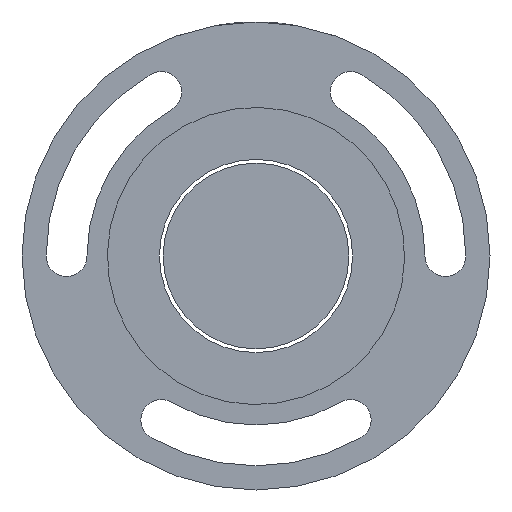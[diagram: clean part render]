
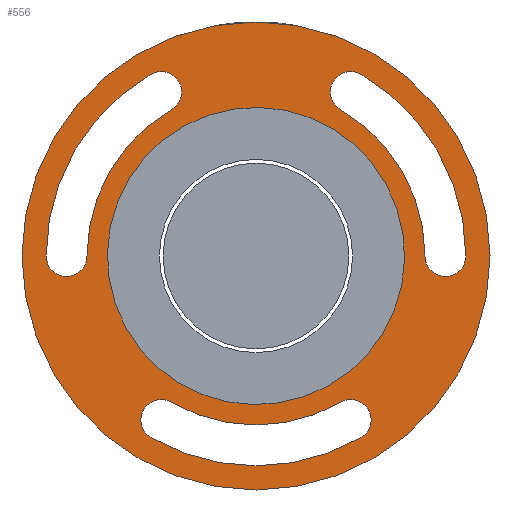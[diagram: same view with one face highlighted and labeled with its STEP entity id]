
A CAD part, left-side view. The second image highlights one B-rep face of the part: STEP entity #556.
In plain terms, the highlighted planar face has unit normal (-1, 0, 0).
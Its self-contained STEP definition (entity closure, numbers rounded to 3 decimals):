
#357=CARTESIAN_POINT('Vertex',(-11.,31.5,0.)) ;
#364=CARTESIAN_POINT('Vertex',(-11.,-31.5,0.)) ;
#367=CARTESIAN_POINT('Axis2P3D Location',(-11.,0.,0.)) ;
#388=CARTESIAN_POINT('Vertex',(-11.,9.589,17.552)) ;
#393=CARTESIAN_POINT('Axis2P3D Location',(-11.,0.,0.)) ;
#397=CARTESIAN_POINT('Vertex',(-11.,-9.589,-17.552)) ;
#419=CARTESIAN_POINT('Axis2P3D Location',(-11.,0.,0.)) ;
#436=CARTESIAN_POINT('Axis2P3D Location',(-11.,0.,83.699)) ;
#441=CARTESIAN_POINT('Axis2P3D Location',(-11.,0.,0.)) ;
#450=CARTESIAN_POINT('Axis2P3D Location',(-11.,12.75,22.084)) ;
#454=CARTESIAN_POINT('Vertex',(-11.,11.375,19.702)) ;
#456=CARTESIAN_POINT('Vertex',(-11.,14.125,24.465)) ;
#459=CARTESIAN_POINT('Axis2P3D Location',(-11.,0.,0.)) ;
#463=CARTESIAN_POINT('Vertex',(-11.,22.75,0.)) ;
#466=CARTESIAN_POINT('Axis2P3D Location',(-11.,25.5,0.)) ;
#470=CARTESIAN_POINT('Vertex',(-11.,28.25,0.)) ;
#473=CARTESIAN_POINT('Axis2P3D Location',(-11.,0.,0.)) ;
#488=CARTESIAN_POINT('Axis2P3D Location',(-11.,0.,0.)) ;
#492=CARTESIAN_POINT('Vertex',(-11.,-28.25,0.)) ;
#494=CARTESIAN_POINT('Vertex',(-11.,-14.125,24.465)) ;
#497=CARTESIAN_POINT('Axis2P3D Location',(-11.,-25.5,0.)) ;
#501=CARTESIAN_POINT('Vertex',(-11.,-22.75,0.)) ;
#504=CARTESIAN_POINT('Axis2P3D Location',(-11.,0.,0.)) ;
#508=CARTESIAN_POINT('Vertex',(-11.,-11.375,19.702)) ;
#511=CARTESIAN_POINT('Axis2P3D Location',(-11.,-12.75,22.084)) ;
#522=CARTESIAN_POINT('Axis2P3D Location',(-11.,0.,0.)) ;
#526=CARTESIAN_POINT('Vertex',(-11.,14.125,-24.465)) ;
#528=CARTESIAN_POINT('Vertex',(-11.,-14.125,-24.465)) ;
#531=CARTESIAN_POINT('Axis2P3D Location',(-11.,12.75,-22.084)) ;
#535=CARTESIAN_POINT('Vertex',(-11.,11.375,-19.702)) ;
#538=CARTESIAN_POINT('Axis2P3D Location',(-11.,0.,0.)) ;
#542=CARTESIAN_POINT('Vertex',(-11.,-11.375,-19.702)) ;
#545=CARTESIAN_POINT('Axis2P3D Location',(-11.,-12.75,-22.084)) ;
#368=DIRECTION('Axis2P3D Direction',(1.,0.,0.)) ;
#394=DIRECTION('Axis2P3D Direction',(-1.,0.,0.)) ;
#420=DIRECTION('Axis2P3D Direction',(-1.,0.,0.)) ;
#437=DIRECTION('Axis2P3D Direction',(-1.,0.,0.)) ;
#438=DIRECTION('Axis2P3D XDirection',(0.,1.,0.)) ;
#442=DIRECTION('Axis2P3D Direction',(-1.,0.,0.)) ;
#451=DIRECTION('Axis2P3D Direction',(-1.,0.,0.)) ;
#460=DIRECTION('Axis2P3D Direction',(-1.,0.,0.)) ;
#467=DIRECTION('Axis2P3D Direction',(-1.,0.,0.)) ;
#474=DIRECTION('Axis2P3D Direction',(-1.,0.,0.)) ;
#489=DIRECTION('Axis2P3D Direction',(-1.,0.,0.)) ;
#498=DIRECTION('Axis2P3D Direction',(-1.,0.,0.)) ;
#505=DIRECTION('Axis2P3D Direction',(-1.,0.,0.)) ;
#512=DIRECTION('Axis2P3D Direction',(-1.,0.,0.)) ;
#523=DIRECTION('Axis2P3D Direction',(-1.,0.,0.)) ;
#532=DIRECTION('Axis2P3D Direction',(-1.,0.,0.)) ;
#539=DIRECTION('Axis2P3D Direction',(-1.,0.,0.)) ;
#546=DIRECTION('Axis2P3D Direction',(-1.,0.,0.)) ;
#369=AXIS2_PLACEMENT_3D('Circle Axis2P3D',#367,#368,$) ;
#395=AXIS2_PLACEMENT_3D('Circle Axis2P3D',#393,#394,$) ;
#421=AXIS2_PLACEMENT_3D('Circle Axis2P3D',#419,#420,$) ;
#439=AXIS2_PLACEMENT_3D('Plane Axis2P3D',#436,#437,#438) ;
#443=AXIS2_PLACEMENT_3D('Circle Axis2P3D',#441,#442,$) ;
#452=AXIS2_PLACEMENT_3D('Circle Axis2P3D',#450,#451,$) ;
#461=AXIS2_PLACEMENT_3D('Circle Axis2P3D',#459,#460,$) ;
#468=AXIS2_PLACEMENT_3D('Circle Axis2P3D',#466,#467,$) ;
#475=AXIS2_PLACEMENT_3D('Circle Axis2P3D',#473,#474,$) ;
#490=AXIS2_PLACEMENT_3D('Circle Axis2P3D',#488,#489,$) ;
#499=AXIS2_PLACEMENT_3D('Circle Axis2P3D',#497,#498,$) ;
#506=AXIS2_PLACEMENT_3D('Circle Axis2P3D',#504,#505,$) ;
#513=AXIS2_PLACEMENT_3D('Circle Axis2P3D',#511,#512,$) ;
#524=AXIS2_PLACEMENT_3D('Circle Axis2P3D',#522,#523,$) ;
#533=AXIS2_PLACEMENT_3D('Circle Axis2P3D',#531,#532,$) ;
#540=AXIS2_PLACEMENT_3D('Circle Axis2P3D',#538,#539,$) ;
#547=AXIS2_PLACEMENT_3D('Circle Axis2P3D',#545,#546,$) ;
#447=ORIENTED_EDGE('',*,*,#371,.T.) ;
#448=ORIENTED_EDGE('',*,*,#445,.T.) ;
#479=ORIENTED_EDGE('',*,*,#458,.F.) ;
#480=ORIENTED_EDGE('',*,*,#465,.T.) ;
#481=ORIENTED_EDGE('',*,*,#472,.F.) ;
#482=ORIENTED_EDGE('',*,*,#477,.F.) ;
#485=ORIENTED_EDGE('',*,*,#399,.F.) ;
#486=ORIENTED_EDGE('',*,*,#423,.F.) ;
#517=ORIENTED_EDGE('',*,*,#496,.F.) ;
#518=ORIENTED_EDGE('',*,*,#503,.F.) ;
#519=ORIENTED_EDGE('',*,*,#510,.T.) ;
#520=ORIENTED_EDGE('',*,*,#515,.F.) ;
#551=ORIENTED_EDGE('',*,*,#530,.F.) ;
#552=ORIENTED_EDGE('',*,*,#537,.F.) ;
#553=ORIENTED_EDGE('',*,*,#544,.T.) ;
#554=ORIENTED_EDGE('',*,*,#549,.F.) ;
#483=FACE_BOUND('',#478,.T.) ;
#487=FACE_BOUND('',#484,.T.) ;
#521=FACE_BOUND('',#516,.T.) ;
#555=FACE_BOUND('',#550,.T.) ;
#556=ADVANCED_FACE('NUT',(#449,#483,#487,#521,#555),#440,.T.) ;
#370=CIRCLE('generated circle',#369,31.5) ;
#396=CIRCLE('generated circle',#395,20.) ;
#422=CIRCLE('generated circle',#421,20.) ;
#444=CIRCLE('generated circle',#443,31.5) ;
#453=CIRCLE('generated circle',#452,2.75) ;
#462=CIRCLE('generated circle',#461,22.75) ;
#469=CIRCLE('generated circle',#468,2.75) ;
#476=CIRCLE('generated circle',#475,28.25) ;
#491=CIRCLE('generated circle',#490,28.25) ;
#500=CIRCLE('generated circle',#499,2.75) ;
#507=CIRCLE('generated circle',#506,22.75) ;
#514=CIRCLE('generated circle',#513,2.75) ;
#525=CIRCLE('generated circle',#524,28.25) ;
#534=CIRCLE('generated circle',#533,2.75) ;
#541=CIRCLE('generated circle',#540,22.75) ;
#548=CIRCLE('generated circle',#547,2.75) ;
#371=EDGE_CURVE('',#358,#365,#370,.F.) ;
#399=EDGE_CURVE('',#389,#398,#396,.T.) ;
#423=EDGE_CURVE('',#398,#389,#422,.T.) ;
#445=EDGE_CURVE('',#365,#358,#444,.T.) ;
#458=EDGE_CURVE('',#455,#457,#453,.T.) ;
#465=EDGE_CURVE('',#455,#464,#462,.T.) ;
#472=EDGE_CURVE('',#471,#464,#469,.T.) ;
#477=EDGE_CURVE('',#457,#471,#476,.T.) ;
#496=EDGE_CURVE('',#493,#495,#491,.T.) ;
#503=EDGE_CURVE('',#502,#493,#500,.T.) ;
#510=EDGE_CURVE('',#502,#509,#507,.T.) ;
#515=EDGE_CURVE('',#495,#509,#514,.T.) ;
#530=EDGE_CURVE('',#527,#529,#525,.T.) ;
#537=EDGE_CURVE('',#536,#527,#534,.T.) ;
#544=EDGE_CURVE('',#536,#543,#541,.T.) ;
#549=EDGE_CURVE('',#529,#543,#548,.T.) ;
#446=EDGE_LOOP('',(#447,#448)) ;
#478=EDGE_LOOP('',(#479,#480,#481,#482)) ;
#484=EDGE_LOOP('',(#485,#486)) ;
#516=EDGE_LOOP('',(#517,#518,#519,#520)) ;
#550=EDGE_LOOP('',(#551,#552,#553,#554)) ;
#449=FACE_OUTER_BOUND('',#446,.T.) ;
#440=PLANE('',#439) ;
#358=VERTEX_POINT('',#357) ;
#365=VERTEX_POINT('',#364) ;
#389=VERTEX_POINT('',#388) ;
#398=VERTEX_POINT('',#397) ;
#455=VERTEX_POINT('',#454) ;
#457=VERTEX_POINT('',#456) ;
#464=VERTEX_POINT('',#463) ;
#471=VERTEX_POINT('',#470) ;
#493=VERTEX_POINT('',#492) ;
#495=VERTEX_POINT('',#494) ;
#502=VERTEX_POINT('',#501) ;
#509=VERTEX_POINT('',#508) ;
#527=VERTEX_POINT('',#526) ;
#529=VERTEX_POINT('',#528) ;
#536=VERTEX_POINT('',#535) ;
#543=VERTEX_POINT('',#542) ;
